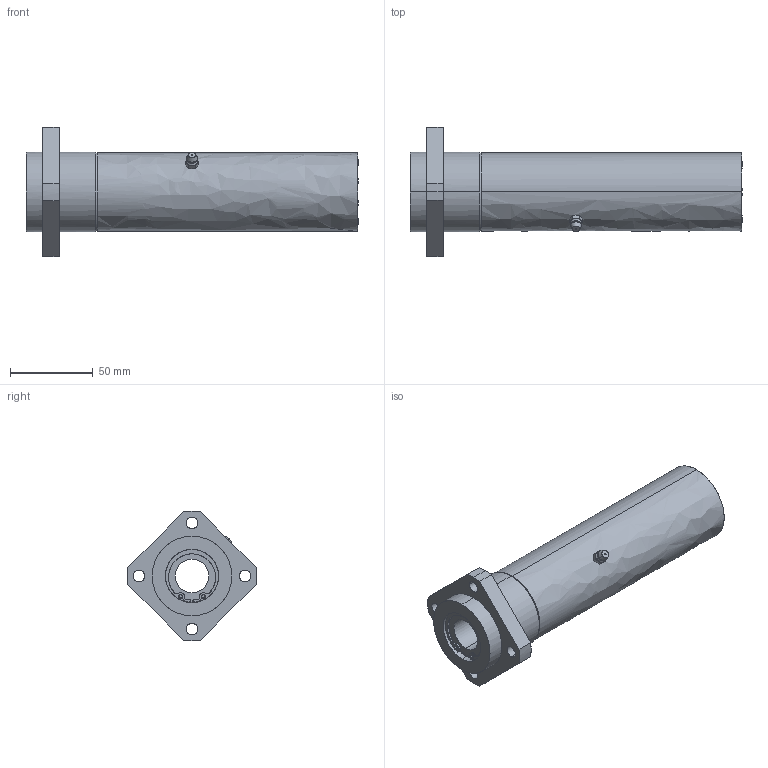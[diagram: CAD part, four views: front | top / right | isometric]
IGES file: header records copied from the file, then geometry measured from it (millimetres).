
Global section: file name: No Iges File Name specified; native system: AutoDesk Inventor R10; preprocessor: AutoDesk Inventor Iges Exporter R10; author: No Author specified; organization: No Organization specified; date: 20101214.141152; units: millimetre
Bounding box: 200 x 77.99 x 78 mm (x, y, z)
Surface area: 55287.2 mm2 (no closed solid volume)
Topology: 0 solids, 0 shells, 162 faces, 1110 edges, 1108 vertices
Faces by surface type: bspline 162
